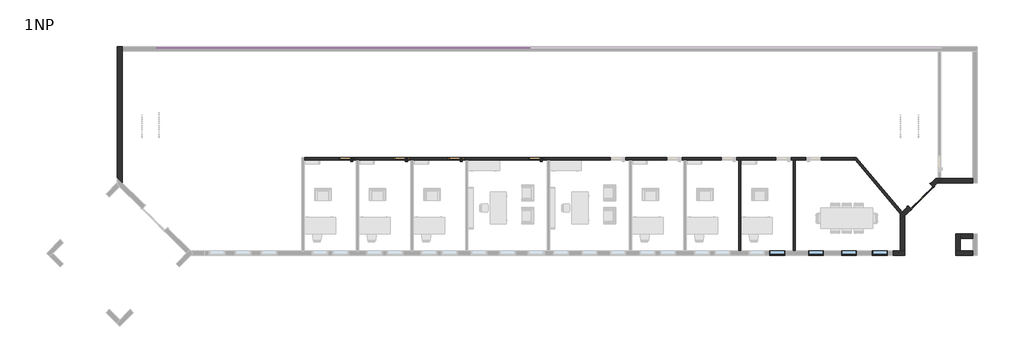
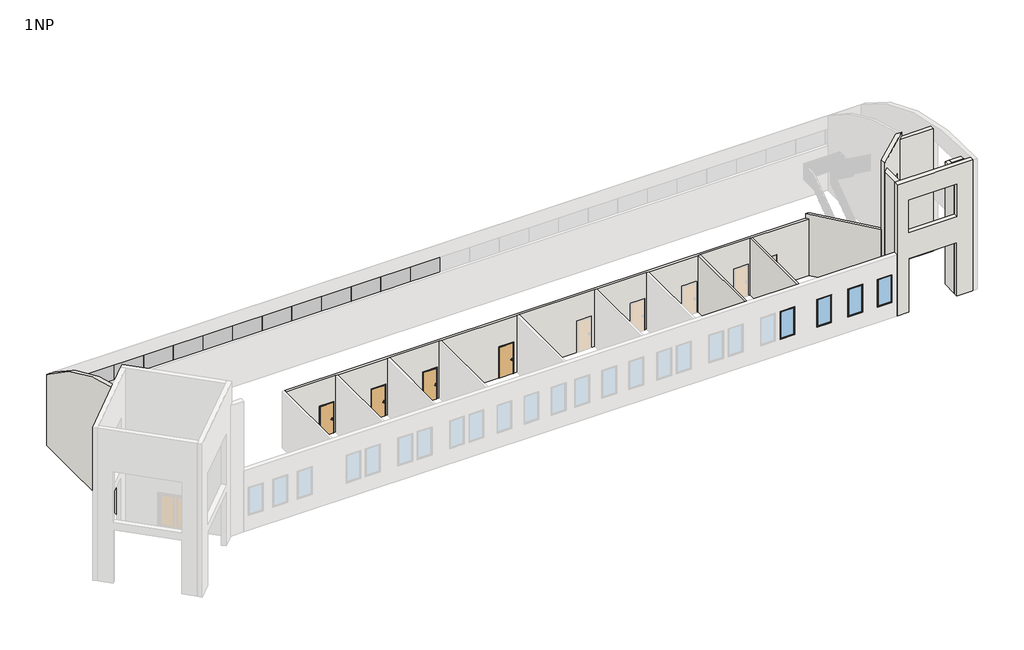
# One storey, part 2 of 3: 12 plates, 11 walls, 5 doors, 4 windows.
"""IFC4 building model written with IfcOpenShell, lengths in millimetres."""

from ifc_helpers import new_model, si_unit, frame, origin, origin_with_axes, place, context, project, spatial, polyline, circle_curve, ellipse_curve, outline, extrude, faceted_brep, transform, mapped, element, save
from ifc_brep_helpers import plane_surface, cylinder_surface, advanced_brep
from components import door_1800_x_1970mm_3c2632e2, door_900_x_2000_4c66a93d, system_panel_glazed_e7f7cd54, window_0915_x_1830mm_7ee91fd3

model = new_model("IFC4")

# Units and contexts
model_context = context("Model", 3, world=origin())
ifc_project = project(units=[si_unit("LENGTHUNIT", "METRE", prefix="MILLI")], contexts=[model_context])

# Site, building, storey
site = spatial("IfcSite", under=ifc_project)
building = spatial("IfcBuilding", under=site)
storey = spatial("IfcBuildingStorey", under=building, Name="1NP", Elevation=0.0)

# Doors
placement = place(None, origin())
door_1800_x_1970mm_shape = door_1800_x_1970mm_3c2632e2(model_context)
element("IfcDoor", 1, ObjectType="Dvoukridle prosklene : 1800 x 1970mm", at=placement, inside=storey, context=model_context, shape_type="MappedRepresentation", body=[
    mapped(door_1800_x_1970mm_shape, transform((35397.5898577, -1433.3591998, 0.0), x_axis=(0.7071067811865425, 0.7071067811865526, 0.0), y_axis=(-0.7071067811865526, 0.7071067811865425, 0.0), z_axis=(0.0, 0.0, 1.0))),
])
door_900_x_2000_shape = door_900_x_2000_4c66a93d(model_context)
element("IfcDoor", 2, ObjectType="Jednokridle oboustrana zaruben : 900 x 2000", at=placement, inside=storey, context=model_context, shape_type="MappedRepresentation", body=[
    mapped(door_900_x_2000_shape, transform((1782.4255273, 791.5551306, 0.0), x_axis=(1.0, 0.0, 0.0), y_axis=(0.0, 1.0, 0.0), z_axis=(0.0, 0.0, 1.0))),
])
element("IfcDoor", 3, ObjectType="Jednokridle oboustrana zaruben : 900 x 2000", at=placement, inside=storey, context=model_context, shape_type="MappedRepresentation", body=[
    mapped(door_900_x_2000_shape, transform((4982.4255273, 791.5551306, 0.0), x_axis=(1.0, 0.0, 0.0), y_axis=(0.0, 1.0, 0.0), z_axis=(0.0, 0.0, 1.0))),
])
element("IfcDoor", 4, ObjectType="Jednokridle oboustrana zaruben : 900 x 2000", at=placement, inside=storey, context=model_context, shape_type="MappedRepresentation", body=[
    mapped(door_900_x_2000_shape, transform((8182.4255273, 791.5551306, 0.0), x_axis=(1.0, 0.0, 0.0), y_axis=(0.0, 1.0, 0.0), z_axis=(0.0, 0.0, 1.0))),
])
element("IfcDoor", 5, ObjectType="Jednokridle oboustrana zaruben : 900 x 2000", at=placement, inside=storey, context=model_context, shape_type="MappedRepresentation", body=[
    mapped(door_900_x_2000_shape, transform((12882.4255273, 791.5551306, 0.0), x_axis=(1.0, 0.0, 0.0), y_axis=(0.0, 1.0, 0.0), z_axis=(0.0, 0.0, 1.0))),
])

# Plates
system_panel_glazed_shape = system_panel_glazed_e7f7cd54(model_context)
element("IfcPlate", 6, ObjectType="System Panel : Glazed", at=placement, inside=storey, context=model_context, shape_type="MappedRepresentation", body=[
    mapped(system_panel_glazed_shape, transform((-8495.8244727, 7241.5551306, 2916.2475184), x_axis=(1.0, 0.0, 0.0), y_axis=(0.0, 1.0, 0.0), z_axis=(0.0, 0.0, 1.0))),
])
element("IfcPlate", 7, ObjectType="System Panel : Glazed", at=placement, inside=storey, context=model_context, shape_type="MappedRepresentation", body=[
    mapped(system_panel_glazed_shape, transform((-6665.8244727, 7241.5551306, 2916.2475184), x_axis=(1.0, 0.0, 0.0), y_axis=(0.0, 1.0, 0.0), z_axis=(0.0, 0.0, 1.0))),
])
element("IfcPlate", 8, ObjectType="System Panel : Glazed", at=placement, inside=storey, context=model_context, shape_type="MappedRepresentation", body=[
    mapped(system_panel_glazed_shape, transform((-4835.8244727, 7241.5551306, 2916.2475184), x_axis=(1.0, 0.0, 0.0), y_axis=(0.0, 1.0, 0.0), z_axis=(0.0, 0.0, 1.0))),
])
element("IfcPlate", 9, ObjectType="System Panel : Glazed", at=placement, inside=storey, context=model_context, shape_type="MappedRepresentation", body=[
    mapped(system_panel_glazed_shape, transform((-3005.8244727, 7241.5551306, 2916.2475184), x_axis=(1.0, 0.0, 0.0), y_axis=(0.0, 1.0, 0.0), z_axis=(0.0, 0.0, 1.0))),
])
element("IfcPlate", 10, ObjectType="System Panel : Glazed", at=placement, inside=storey, context=model_context, shape_type="MappedRepresentation", body=[
    mapped(system_panel_glazed_shape, transform((-1175.8244727, 7241.5551306, 2916.2475184), x_axis=(1.0, 0.0, 0.0), y_axis=(0.0, 1.0, 0.0), z_axis=(0.0, 0.0, 1.0))),
])
element("IfcPlate", 11, ObjectType="System Panel : Glazed", at=placement, inside=storey, context=model_context, shape_type="MappedRepresentation", body=[
    mapped(system_panel_glazed_shape, transform((654.1755273, 7241.5551306, 2916.2475184), x_axis=(1.0, 0.0, 0.0), y_axis=(0.0, 1.0, 0.0), z_axis=(0.0, 0.0, 1.0))),
])
element("IfcPlate", 12, ObjectType="System Panel : Glazed", at=placement, inside=storey, context=model_context, shape_type="MappedRepresentation", body=[
    mapped(system_panel_glazed_shape, transform((2484.1755273, 7241.5551306, 2916.2475184), x_axis=(1.0, 0.0, 0.0), y_axis=(0.0, 1.0, 0.0), z_axis=(0.0, 0.0, 1.0))),
])
element("IfcPlate", 13, ObjectType="System Panel : Glazed", at=placement, inside=storey, context=model_context, shape_type="MappedRepresentation", body=[
    mapped(system_panel_glazed_shape, transform((4314.1755273, 7241.5551306, 2916.2475184), x_axis=(1.0, 0.0, 0.0), y_axis=(0.0, 1.0, 0.0), z_axis=(0.0, 0.0, 1.0))),
])
element("IfcPlate", 14, ObjectType="System Panel : Glazed", at=placement, inside=storey, context=model_context, shape_type="MappedRepresentation", body=[
    mapped(system_panel_glazed_shape, transform((6144.1755273, 7241.5551306, 2916.2475184), x_axis=(1.0, 0.0, 0.0), y_axis=(0.0, 1.0, 0.0), z_axis=(0.0, 0.0, 1.0))),
])
element("IfcPlate", 15, ObjectType="System Panel : Glazed", at=placement, inside=storey, context=model_context, shape_type="MappedRepresentation", body=[
    mapped(system_panel_glazed_shape, transform((7974.1755273, 7241.5551306, 2916.2475184), x_axis=(1.0, 0.0, 0.0), y_axis=(0.0, 1.0, 0.0), z_axis=(0.0, 0.0, 1.0))),
])
element("IfcPlate", 16, ObjectType="System Panel : Glazed", at=placement, inside=storey, context=model_context, shape_type="MappedRepresentation", body=[
    mapped(system_panel_glazed_shape, transform((9804.1755273, 7241.5551306, 2916.2475184), x_axis=(1.0, 0.0, 0.0), y_axis=(0.0, 1.0, 0.0), z_axis=(0.0, 0.0, 1.0))),
])
element("IfcPlate", 17, ObjectType="System Panel : Glazed", at=placement, inside=storey, context=model_context, shape_type="MappedRepresentation", body=[
    mapped(system_panel_glazed_shape, transform((11634.1755273, 7241.5551306, 2916.2475184), x_axis=(1.0, 0.0, 0.0), y_axis=(0.0, 1.0, 0.0), z_axis=(0.0, 0.0, 1.0))),
])

# Walls
element("IfcWall", 18, ObjectType="Exterior - EIFS on Mtl. Stud", at=placement, inside=storey, context=model_context, shape_type="AdvancedBrep", body=[
    advanced_brep(
    [(38455.6755273, -4624.9448694, 0.0), (37722.6755273, -4624.9448694, 0.0), (37455.6755273, -4624.9448694, 0.0), (37455.6755273, -4624.9448694, 3500.0), (34472.6755273, -4624.9448694, 3500.0), (34472.6755273, -4624.9448694, 0.0), (34205.6755273, -4624.9448694, 0.0), (33755.6755273, -4624.9448694, 0.0), (33755.6755273, -4624.9448694, 4000.0), (33755.6755273, -4624.9448694, 8000.0), (33755.6755273, -4624.9448694, 8556.4380679), (38455.6755273, -4624.9448694, 8556.4380679), (37455.6755273, -4624.9448694, 7300.0), (34472.6755273, -4624.9448694, 7300.0), (34472.6755273, -4624.9448694, 5200.0), (37455.6755273, -4624.9448694, 5200.0), (38455.6755273, -4891.9448694, 0.0), (38455.6755273, -4891.9448694, 8541.7849302), (33755.6755273, -4891.9448694, 8541.7849302), (33755.6755273, -4891.9448694, 8000.0), (33755.6755273, -4891.9448694, 4000.0), (33755.6755273, -4891.9448694, 0.0), (34472.6755273, -4891.9448694, 0.0), (34472.6755273, -4891.9448694, 3500.0), (37455.6755273, -4891.9448694, 3500.0), (37455.6755273, -4891.9448694, 0.0), (37455.6755273, -4891.9448694, 7300.0), (37455.6755273, -4891.9448694, 5200.0), (34472.6755273, -4891.9448694, 5200.0), (34472.6755273, -4891.9448694, 7300.0)],
    [
        (0, 1),
        (1, 2),
        (2, 3),
        (3, 4),
        (4, 5),
        (5, 6),
        (6, 7),
        (7, 8),
        (8, 9),
        (9, 10),
        (10, 11),
        (11, 0),
        (12, 13),
        (13, 14),
        (14, 15),
        (15, 12),
        (16, 17),
        (17, 18),
        (18, 19),
        (19, 20),
        (20, 21),
        (21, 22),
        (22, 23),
        (23, 24),
        (24, 25),
        (25, 16),
        (26, 27),
        (27, 28),
        (28, 29),
        (29, 26),
        (0, 16),
        (25, 2),
        (3, 24),
        (23, 4),
        (22, 5),
        (21, 7),
        (12, 26),
        (29, 13),
        (14, 28),
        (27, 15),
        (18, 10, circle_curve(frame((33755.6755273, -3782.5530793, -9232.9575956), z_axis=(-1.0, 0.0, 0.0), x_axis=(0.0, -1.0, 0.0)), 17809.3296337)),
        (11, 17, circle_curve(frame((38455.6755273, -3782.5530793, -9232.9575956), z_axis=(1.0, 0.0, 0.0), x_axis=(0.0, -1.0, 0.0)), 17809.3296337)),
    ],
    [
        plane_surface(frame((12455.6755273, -4624.9448694, 0.0), z_axis=(0.0, 1.0, 0.0), x_axis=(-1.0, 0.0, 0.0))),
        plane_surface(frame((12455.6755273, -4891.9448694, 0.0), z_axis=(0.0, -1.0, 0.0), x_axis=(1.0, 0.0, 0.0))),
        plane_surface(frame((38589.1755273, -4624.9448694, 0.0), z_axis=(0.0, 0.0, -1.0), x_axis=(0.0, -1.0, 0.0))),
        plane_surface(frame((37589.1755273, -4624.9448694, 3500.0), z_axis=(0.0, 0.0, -1.0), x_axis=(0.0, -1.0, 0.0))),
        plane_surface(frame((34472.6755273, -4624.9448694, 3500.0), z_axis=(1.0, 0.0, 0.0), x_axis=(0.0, -1.0, 0.0))),
        plane_surface(frame((34472.6755273, -4624.9448694, 0.0), z_axis=(0.0, 0.0, -1.0), x_axis=(0.0, -1.0, 0.0))),
        plane_surface(frame((37589.1755273, -4624.9448694, 7300.0), z_axis=(0.0, 0.0, -1.0), x_axis=(0.0, -1.0, 0.0))),
        plane_surface(frame((34339.1755273, -4624.9448694, 5200.0), z_axis=(0.0, 0.0, 1.0), x_axis=(0.0, -1.0, 0.0))),
        plane_surface(frame((33755.6755273, -4624.9448694, 0.0), z_axis=(-1.0, 0.0, 0.0), x_axis=(0.0, -1.0, 0.0))),
        plane_surface(frame((34472.6755273, -4758.4448694, 0.0), z_axis=(1.0, 0.0, 0.0), x_axis=(0.0, 1.0, 0.0))),
        plane_surface(frame((37455.6755273, -4758.4448694, 0.0), z_axis=(-1.0, 0.0, 0.0), x_axis=(0.0, -1.0, 0.0))),
        plane_surface(frame((38455.6755273, 5741.5551306, 0.0), z_axis=(1.0, 0.0, 0.0), x_axis=(0.0, -1.0, 0.0))),
        cylinder_surface(frame((39922.6755273, -3782.5530793, -9232.9575956), z_axis=(1.0, 0.0, 0.0), x_axis=(0.0, -1.0, 0.0)), 17809.3296337),
    ],
    [
        (0, [[1, 2, 3, 4, 5, 6, 7, 8, 9, 10, 11, 12], [13, 14, 15, 16]]),
        (1, [[17, 18, 19, 20, 21, 22, 23, 24, 25, 26], [27, 28, 29, 30]]),
        (2, [[-2, -1, 31, -26, 32]]),
        (3, [[-4, 33, -24, 34]]),
        (4, [[-5, -34, -23, 35]]),
        (5, [[-7, -6, -35, -22, 36]]),
        (6, [[-13, 37, -30, 38]]),
        (7, [[-15, 39, -28, 40]]),
        (8, [[-36, -21, -20, -19, 41, -10, -9, -8]]),
        (9, [[-14, -38, -29, -39]]),
        (10, [[-3, -32, -25, -33]]),
        (10, [[-16, -40, -27, -37]]),
        (11, [[-12, 42, -17, -31]]),
        (12, [[-11, -41, -18, -42]]),
    ],
),
])
element("IfcWall", 19, ObjectType="Exterior - EIFS on Mtl. Stud", at=placement, inside=storey, context=model_context, shape_type="AdvancedBrep", body=[
    advanced_brep(
    [(-11410.8244727, -601.928028, 0.0), (-11410.8244727, 7108.0551306, 0.0), (-11410.8244727, 7375.0551306, 0.0), (-11410.8244727, 7375.0551306, 4647.9646014), (-11410.8244727, 7108.0445023, 4858.4264309), (-11410.8244727, -601.928028, 8290.0514578), (-11677.8244727, -334.928028, 0.0), (-11677.8244727, -334.928028, 8239.4808006), (-11677.8244727, 7375.0551306, 4647.9646014), (-11677.8244727, 7375.0551306, 0.0)],
    [
        (0, 1),
        (1, 2),
        (2, 3),
        (3, 4, circle_curve(frame((-11410.8244727, -3782.5530793, -9232.9575956), z_axis=(1.0, 0.0, 0.0), x_axis=(0.0, -1.0, 0.0)), 17809.3296337)),
        (4, 5, circle_curve(frame((-11410.8244727, -3782.5530793, -9232.9575956), z_axis=(1.0, 0.0, 0.0), x_axis=(0.0, -1.0, 0.0)), 17809.3295625)),
        (5, 0),
        (6, 7),
        (7, 8, circle_curve(frame((-11677.8244727, -3782.5530793, -9232.9575956), z_axis=(-1.0, 0.0, 0.0), x_axis=(0.0, -1.0, 0.0)), 17809.3296337)),
        (8, 9),
        (9, 6),
        (0, 6),
        (9, 2),
        (8, 3),
        (5, 7, ellipse_curve(frame((-8230.1994214, -3782.5530793, -9232.9575956), z_axis=(-0.7071067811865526, -0.7071067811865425, 0.0), x_axis=(0.7071067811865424, -0.7071067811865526, 0.0)), 25186.1955048, 17809.3296337)),
    ],
    [
        plane_surface(frame((-11410.8244727, -6258.4448694, 0.0), z_axis=(1.0, 0.0, 0.0), x_axis=(0.0, 1.0, 0.0))),
        plane_surface(frame((-11677.8244727, -6258.4448694, 0.0), z_axis=(-1.0, 0.0, 0.0), x_axis=(0.0, -1.0, 0.0))),
        plane_surface(frame((-11410.8244727, -657.2255385, 0.0), z_axis=(0.0, 0.0, -1.0), x_axis=(-1.0, 0.0, 0.0))),
        plane_surface(frame((-5544.3244727, 7375.0551306, 0.0), z_axis=(0.0, 1.0, 0.0), x_axis=(-1.0, 0.0, 0.0))),
        plane_surface(frame((-12510.5858892, 497.8333885, 0.0), z_axis=(-0.7071067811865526, -0.7071067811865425, 0.0), x_axis=(-0.7071067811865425, 0.7071067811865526, 0.0))),
        cylinder_surface(frame((39922.6755273, -3782.5530793, -9232.9575956), z_axis=(1.0, 0.0, 0.0), x_axis=(0.0, -1.0, 0.0)), 17809.3296337),
    ],
    [
        (0, [[1, 2, 3, 4, 5, 6]]),
        (1, [[7, 8, 9, 10]]),
        (2, [[-2, -1, 11, -10, 12]]),
        (3, [[-3, -12, -9, 13]]),
        (4, [[-6, 14, -7, -11]]),
        (5, [[-5, -4, -13, -8, -14]]),
    ],
),
])
element("IfcWall", 20, ObjectType="Exterior - EIFS on Mtl. Stud", at=placement, inside=storey, context=model_context, shape_type="Brep", body=[
    faceted_brep([(37722.6755273, -4624.9448694, 8000.0), (37722.6755273, -4624.9448694, 0.0), (37722.6755273, -3891.9448694, 0.0), (37722.6755273, -3624.9448694, 0.0), (37722.6755273, -3624.9448694, 8000.0), (37722.6755273, -3891.9448694, 8000.0), (37455.6755273, -4624.9448694, 0.0), (37455.6755273, -4624.9448694, 3500.0), (37455.6755273, -4624.9448694, 5200.0), (37455.6755273, -4624.9448694, 7300.0), (37455.6755273, -4624.9448694, 8000.0), (37455.6755273, -3624.9448694, 8000.0), (37455.6755273, -3624.9448694, 0.0)], [[[0, 1, 2, 3, 4, 5]], [[6, 7, 8, 9, 10, 11, 12]], [[3, 2, 1, 6, 12]], [[0, 5, 4, 11, 10]], [[4, 3, 12, 11]], [[0, 10, 9, 8, 7, 6, 1]]]),
])
element("IfcWall", 21, ObjectType="Exterior - EIFS on Mtl. Stud", at=placement, inside=storey, context=model_context, shape_type="Brep", body=[
    faceted_brep([(37722.6755273, -3891.9448694, 0.0), (38455.6755273, -3891.9448694, 0.0), (38455.6755273, -3891.9448694, 8000.0), (37722.6755273, -3891.9448694, 8000.0), (37722.6755273, -3624.9448694, 0.0), (37722.6755273, -3624.9448694, 8000.0), (38455.6755273, -3624.9448694, 8000.0), (38455.6755273, -3624.9448694, 7300.0), (38455.6755273, -3624.9448694, 5200.0), (38455.6755273, -3624.9448694, 3500.0), (38455.6755273, -3624.9448694, 0.0)], [[[0, 1, 2, 3]], [[4, 5, 6, 7, 8, 9, 10]], [[1, 0, 4, 10]], [[3, 2, 6, 5]], [[0, 3, 5, 4]], [[1, 10, 9, 8, 7, 6, 2]]]),
])
element("IfcWall", 22, ObjectType="Exterior - EIFS on Mtl. Stud", at=placement, inside=storey, context=model_context, shape_type="AdvancedBrep", body=[
    advanced_brep(
    [(36270.5742736, -374.9448694, 0.0), (35951.8776052, -693.6415378, 0.0), (35951.8776052, -693.6415378, 2134.0), (34657.8721956, -1987.6469473, 2134.0), (34657.8721956, -1987.6469473, 0.0), (34302.1897841, -2343.3293589, 0.0), (34205.6755273, -2439.8436157, 0.0), (34205.6755273, -2439.8436157, 4000.0), (34205.6755273, -2439.8436157, 8000.0), (34205.6755273, -2439.8436157, 8525.6840557), (36270.5742736, -374.9448694, 8247.3292525), (35823.8290879, -821.6900551, 4000.0), (35823.8290879, -821.6900551, 6134.0), (34529.8236783, -2115.6954646, 6134.0), (34529.8236783, -2115.6954646, 4000.0), (36140.6751158, -882.4390484, 2134.0), (36140.6751158, -882.4390484, 0.0), (36381.1692947, -641.9448694, 0.0), (36648.1692947, -374.9448694, 0.0), (36648.1692947, -374.9448694, 8000.0), (36648.1692947, -374.9448694, 8247.3292525), (34205.6755273, -2817.4386368, 8550.2023068), (34205.6755273, -2817.4386368, 8000.0), (34205.6755273, -2817.4386368, 0.0), (34472.6755273, -2550.4386368, 0.0), (34846.6697062, -2176.4444579, 0.0), (34846.6697062, -2176.4444579, 2134.0), (36012.6265985, -1010.4875656, 4000.0), (34718.6211889, -2304.4929752, 4000.0), (34718.6211889, -2304.4929752, 6134.0), (36012.6265985, -1010.4875656, 6134.0), (36419.9255273, -374.9448694, 0.0), (36558.4255273, -374.9448694, 0.0), (34205.6755273, -2443.7758967, 0.0), (36419.9255273, -374.9448694, 8247.3292525), (36558.4255273, -374.9448694, 8247.3292525)],
    [
        (0, 1),
        (1, 2),
        (2, 3),
        (3, 4),
        (4, 5),
        (5, 6),
        (6, 7),
        (7, 8),
        (8, 9),
        (9, 10, ellipse_curve(frame((32862.9660637, -3782.5530793, -9232.9575956), z_axis=(-0.7071067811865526, 0.7071067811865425, 0.0), x_axis=(0.7071067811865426, 0.7071067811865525, 0.0)), 25186.1955048, 17809.3296337)),
        (10, 0),
        (11, 12),
        (12, 13),
        (13, 14),
        (14, 11),
        (15, 16),
        (16, 17),
        (17, 18),
        (18, 19),
        (19, 20),
        (20, 21, ellipse_curve(frame((33240.5610849, -3782.5530793, -9232.9575956), z_axis=(0.7071067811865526, -0.7071067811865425, 0.0), x_axis=(0.7071067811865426, 0.7071067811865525, 0.0)), 25186.1955048, 17809.3296337)),
        (21, 22),
        (22, 23),
        (23, 24),
        (24, 25),
        (25, 26),
        (26, 15),
        (27, 28),
        (28, 29),
        (29, 30),
        (30, 27),
        (16, 1),
        (0, 31),
        (31, 32),
        (32, 18),
        (23, 33),
        (33, 6),
        (4, 25),
        (10, 34),
        (34, 35),
        (35, 20),
        (21, 9, circle_curve(frame((34205.6755273, -3782.5530793, -9232.9575956), z_axis=(-1.0, 0.0, 0.0), x_axis=(0.0, -1.0, 0.0)), 17809.3296337)),
        (15, 2),
        (26, 3),
        (27, 11),
        (14, 28),
        (13, 29),
        (12, 30),
    ],
    [
        plane_surface(frame((38416.1447376, 1770.6255947, 0.0), z_axis=(-0.7071067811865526, 0.7071067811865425, 0.0), x_axis=(-0.7071067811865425, -0.7071067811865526, 0.0))),
        plane_surface(frame((38604.9422482, 1581.8280841, 0.0), z_axis=(0.7071067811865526, -0.7071067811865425, 0.0), x_axis=(0.7071067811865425, 0.7071067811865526, 0.0))),
        plane_surface(frame((36231.4730288, -414.0461141, 0.0), z_axis=(0.0, 0.0, -1.0), x_axis=(0.7071067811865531, -0.707106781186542, 0.0))),
        plane_surface(frame((38455.6755273, -374.9448694, 0.0), z_axis=(0.0, 1.0, 0.0), x_axis=(-1.0, 0.0, 0.0))),
        plane_surface(frame((34205.6755273, -4758.4448694, 0.0), z_axis=(-1.0, 0.0, 0.0), x_axis=(0.0, -1.0, 0.0))),
        cylinder_surface(frame((39922.6755273, -3782.5530793, -9232.9575956), z_axis=(1.0, 0.0, 0.0), x_axis=(0.0, -1.0, 0.0)), 17809.3296337),
        plane_surface(frame((35951.8776052, -693.6415378, 0.0), z_axis=(-0.7071067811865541, -0.7071067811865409, 0.0), x_axis=(0.7071067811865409, -0.7071067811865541, 0.0))),
        plane_surface(frame((35951.8776052, -693.6415378, 2134.0), z_axis=(0.0, 0.0, -1.0), x_axis=(0.7071067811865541, -0.7071067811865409, 0.0))),
        plane_surface(frame((34657.8721956, -1987.6469473, 2134.0), z_axis=(0.707106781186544, 0.7071067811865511, 0.0), x_axis=(0.7071067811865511, -0.707106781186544, 0.0))),
        plane_surface(frame((36012.6265985, -1010.4875656, 4000.0), z_axis=(0.0, 0.0, 1.0), x_axis=(-0.7071067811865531, 0.707106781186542, 0.0))),
        plane_surface(frame((34718.6211889, -2304.4929752, 4000.0), z_axis=(0.707106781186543, 0.7071067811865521, 0.0), x_axis=(-0.7071067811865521, 0.707106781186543, 0.0))),
        plane_surface(frame((34718.6211889, -2304.4929752, 6134.0), z_axis=(0.0, 0.0, -1.0000000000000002), x_axis=(-0.707106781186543, 0.7071067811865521, 0.0))),
        plane_surface(frame((36012.6265985, -1010.4875656, 6134.0), z_axis=(-0.707106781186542, -0.7071067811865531, 0.0), x_axis=(-0.7071067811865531, 0.707106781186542, 0.0))),
    ],
    [
        (0, [[1, 2, 3, 4, 5, 6, 7, 8, 9, 10, 11], [12, 13, 14, 15]]),
        (1, [[16, 17, 18, 19, 20, 21, 22, 23, 24, 25, 26, 27], [28, 29, 30, 31]]),
        (2, [[-18, -17, 32, -1, 33, 34, 35]]),
        (2, [[-25, -24, 36, 37, -6, -5, 38]]),
        (3, [[-11, 39, 40, 41, -20, -19, -35, -34, -33]]),
        (4, [[-37, -36, -23, -22, 42, -9, -8, -7]]),
        (5, [[-10, -42, -21, -41, -40, -39]]),
        (6, [[-2, -32, -16, 43]]),
        (7, [[-3, -43, -27, 44]]),
        (8, [[-4, -44, -26, -38]]),
        (9, [[-28, 45, -15, 46]]),
        (10, [[-29, -46, -14, 47]]),
        (11, [[-30, -47, -13, 48]]),
        (12, [[-31, -48, -12, -45]]),
    ],
),
])
element("IfcWall", 23, ObjectType="Exterior - EIFS on Mtl. Stud", at=placement, inside=storey, context=model_context, shape_type="Brep", body=[
    faceted_brep([(38455.6755273, -374.9448694, 8000.0), (38455.6755273, -374.9448694, 0.0), (36648.1692947, -374.9448694, 0.0), (36648.1692947, -374.9448694, 8000.0), (38455.6755273, -641.9448694, 0.0), (38455.6755273, -641.9448694, 3500.0), (38455.6755273, -641.9448694, 5200.0), (38455.6755273, -641.9448694, 7300.0), (38455.6755273, -641.9448694, 8000.0), (36381.1692947, -641.9448694, 8000.0), (36381.1692947, -641.9448694, 0.0)], [[[0, 1, 2, 3]], [[4, 5, 6, 7, 8, 9, 10]], [[2, 1, 4, 10]], [[0, 3, 9, 8]], [[3, 2, 10, 9]], [[0, 8, 7, 6, 5, 4, 1]]]),
])
element("IfcWall", 24, ObjectType="Exterior - EIFS on Mtl. Stud", at=placement, inside=storey, context=model_context, shape_type="Brep", body=[
    faceted_brep([(34472.6755273, -4624.9448694, 8000.0), (34472.6755273, -4624.9448694, 7300.0), (34472.6755273, -4624.9448694, 5200.0), (34472.6755273, -4624.9448694, 3500.0), (34472.6755273, -4624.9448694, 0.0), (34472.6755273, -2550.4386368, 0.0), (34472.6755273, -2550.4386368, 8000.0), (34205.6755273, -4624.9448694, 0.0), (34205.6755273, -4624.9448694, 8000.0), (34205.6755273, -2817.4386368, 8000.0), (34205.6755273, -2817.4386368, 0.0)], [[[0, 1, 2, 3, 4, 5, 6]], [[7, 8, 9, 10]], [[5, 4, 7, 10]], [[0, 6, 9, 8]], [[5, 10, 9, 6]], [[0, 8, 7, 4, 3, 2, 1]]]),
])
element("IfcWall", 25, ObjectType="Interior - 138mm Partition (1-hr)", at=placement, inside=storey, context=model_context, shape_type="SweptSolid", body=[
    extrude(outline(polyline([(28058.4255273, 722.3051306), (28058.4255273, -4624.9448694), (27919.9255273, -4624.9448694), (27919.9255273, 722.3051306), (28058.4255273, 722.3051306)])), origin_with_axes(), (0.0, 0.0, 1.0), 3700.0),
])
element("IfcWall", 26, ObjectType="Interior - 138mm Partition (1-hr)", at=placement, inside=storey, context=model_context, shape_type="Brep", body=[
    faceted_brep([(34302.1897841, -2343.3293589, 0.0), (31613.6017157, 860.8051306, 0.0), (31613.6017157, 860.8051306, 4000.0), (34302.1897841, -2343.3293589, 4000.0), (34205.6755273, -2443.7758967, 0.0), (34205.6755273, -2443.7758967, 4000.0), (31432.8028061, 860.8051306, 4000.0), (31432.8028061, 860.8051306, 3700.0), (31432.8028061, 860.8051306, 0.0), (31549.018105, 722.3051306, 0.0), (34205.6755273, -2439.8436157, 0.0), (34205.6755273, -2439.8436157, 4000.0)], [[[0, 1, 2, 3]], [[4, 5, 6, 7, 8, 9]], [[1, 0, 10, 4, 9, 8]], [[3, 2, 6, 5, 11]], [[2, 1, 8, 7, 6]], [[0, 3, 11, 10]], [[11, 5, 4, 10]]]),
])
element("IfcWall", 27, ObjectType="Interior - 138mm Partition (1-hr)", at=placement, inside=storey, context=model_context, shape_type="Brep", body=[
    faceted_brep([(20512.4255273, 860.8051306, 0.0), (18112.4255273, 860.8051306, 0.0), (18112.4255273, 860.8051306, 2050.0), (17212.4255273, 860.8051306, 2050.0), (17212.4255273, 860.8051306, 0.0), (13312.4255273, 860.8051306, 0.0), (13312.4255273, 860.8051306, 2050.0), (12412.4255273, 860.8051306, 2050.0), (12412.4255273, 860.8051306, 0.0), (8612.4255273, 860.8051306, 0.0), (8612.4255273, 860.8051306, 2050.0), (7712.4255273, 860.8051306, 2050.0), (7712.4255273, 860.8051306, 0.0), (5412.4255273, 860.8051306, 0.0), (5412.4255273, 860.8051306, 2050.0), (4512.4255273, 860.8051306, 2050.0), (4512.4255273, 860.8051306, 0.0), (2212.4255273, 860.8051306, 0.0), (2212.4255273, 860.8051306, 2050.0), (1312.4255273, 860.8051306, 2050.0), (1312.4255273, 860.8051306, 0.0), (-741.5744727, 860.8051306, 0.0), (-741.5744727, 860.8051306, 3700.0), (31432.8028061, 860.8051306, 3700.0), (31432.8028061, 860.8051306, 0.0), (29565.9255273, 860.8051306, 0.0), (29565.9255273, 860.8051306, 2050.0), (28665.9255273, 860.8051306, 2050.0), (28665.9255273, 860.8051306, 0.0), (27812.4255273, 860.8051306, 0.0), (27812.4255273, 860.8051306, 2050.0), (26912.4255273, 860.8051306, 2050.0), (26912.4255273, 860.8051306, 0.0), (24612.4255273, 860.8051306, 0.0), (24612.4255273, 860.8051306, 2050.0), (23712.4255273, 860.8051306, 2050.0), (23712.4255273, 860.8051306, 0.0), (21412.4255273, 860.8051306, 0.0), (21412.4255273, 860.8051306, 2050.0), (20512.4255273, 860.8051306, 2050.0), (18112.4255273, 722.3051306, 2050.0), (18112.4255273, 722.3051306, 0.0), (18319.9255273, 722.3051306, 0.0), (18458.4255273, 722.3051306, 0.0), (20512.4255273, 722.3051306, 0.0), (20512.4255273, 722.3051306, 2050.0), (21412.4255273, 722.3051306, 2050.0), (21412.4255273, 722.3051306, 0.0), (21519.9255273, 722.3051306, 0.0), (21658.4255273, 722.3051306, 0.0), (23712.4255273, 722.3051306, 0.0), (23712.4255273, 722.3051306, 2050.0), (24612.4255273, 722.3051306, 2050.0), (24612.4255273, 722.3051306, 0.0), (24719.9255273, 722.3051306, 0.0), (24858.4255273, 722.3051306, 0.0), (26912.4255273, 722.3051306, 0.0), (26912.4255273, 722.3051306, 2050.0), (27812.4255273, 722.3051306, 2050.0), (27812.4255273, 722.3051306, 0.0), (27919.9255273, 722.3051306, 0.0), (28058.4255273, 722.3051306, 0.0), (28665.9255273, 722.3051306, 0.0), (28665.9255273, 722.3051306, 2050.0), (29565.9255273, 722.3051306, 2050.0), (29565.9255273, 722.3051306, 0.0), (31549.018105, 722.3051306, 0.0), (31549.018105, 722.3051306, 3700.0), (28058.4255273, 722.3051306, 3700.0), (27919.9255273, 722.3051306, 3700.0), (24858.4255273, 722.3051306, 3700.0), (24719.9255273, 722.3051306, 3700.0), (21658.4255273, 722.3051306, 3700.0), (21519.9255273, 722.3051306, 3700.0), (18458.4255273, 722.3051306, 3700.0), (18319.9255273, 722.3051306, 3700.0), (13658.4255273, 722.3051306, 3700.0), (13519.9255273, 722.3051306, 3700.0), (8858.4255273, 722.3051306, 3700.0), (8719.9255273, 722.3051306, 3700.0), (5658.4255273, 722.3051306, 3700.0), (5519.9255273, 722.3051306, 3700.0), (2458.4255273, 722.3051306, 3700.0), (2319.9255273, 722.3051306, 3700.0), (-741.5744727, 722.3051306, 3700.0), (-741.5744727, 722.3051306, 0.0), (1312.4255273, 722.3051306, 0.0), (1312.4255273, 722.3051306, 2050.0), (2212.4255273, 722.3051306, 2050.0), (2212.4255273, 722.3051306, 0.0), (2319.9255273, 722.3051306, 0.0), (2458.4255273, 722.3051306, 0.0), (4512.4255273, 722.3051306, 0.0), (4512.4255273, 722.3051306, 2050.0), (5412.4255273, 722.3051306, 2050.0), (5412.4255273, 722.3051306, 0.0), (5519.9255273, 722.3051306, 0.0), (5658.4255273, 722.3051306, 0.0), (7712.4255273, 722.3051306, 0.0), (7712.4255273, 722.3051306, 2050.0), (8612.4255273, 722.3051306, 2050.0), (8612.4255273, 722.3051306, 0.0), (8719.9255273, 722.3051306, 0.0), (8858.4255273, 722.3051306, 0.0), (12412.4255273, 722.3051306, 0.0), (12412.4255273, 722.3051306, 2050.0), (13312.4255273, 722.3051306, 2050.0), (13312.4255273, 722.3051306, 0.0), (13519.9255273, 722.3051306, 0.0), (13658.4255273, 722.3051306, 0.0), (17212.4255273, 722.3051306, 0.0), (17212.4255273, 722.3051306, 2050.0)], [[[0, 1, 2, 3, 4, 5, 6, 7, 8, 9, 10, 11, 12, 13, 14, 15, 16, 17, 18, 19, 20, 21, 22, 23, 24, 25, 26, 27, 28, 29, 30, 31, 32, 33, 34, 35, 36, 37, 38, 39]], [[40, 41, 42, 43, 44, 45, 46, 47, 48, 49, 50, 51, 52, 53, 54, 55, 56, 57, 58, 59, 60, 61, 62, 63, 64, 65, 66, 67, 68, 69, 70, 71, 72, 73, 74, 75, 76, 77, 78, 79, 80, 81, 82, 83, 84, 85, 86, 87, 88, 89, 90, 91, 92, 93, 94, 95, 96, 97, 98, 99, 100, 101, 102, 103, 104, 105, 106, 107, 108, 109, 110, 111]], [[62, 61, 60, 59, 29, 28]], [[25, 24, 66, 65]], [[86, 85, 21, 20]], [[104, 103, 102, 101, 9, 8]], [[92, 91, 90, 89, 17, 16]], [[98, 97, 96, 95, 13, 12]], [[44, 43, 42, 41, 1, 0]], [[50, 49, 48, 47, 37, 36]], [[56, 55, 54, 53, 33, 32]], [[110, 109, 108, 107, 5, 4]], [[23, 22, 84, 83, 82, 81, 80, 79, 78, 77, 76, 75, 74, 73, 72, 71, 70, 69, 68, 67]], [[24, 23, 67, 66]], [[22, 21, 85, 84]], [[63, 62, 28, 27]], [[64, 63, 27, 26]], [[65, 64, 26, 25]], [[18, 17, 89, 88]], [[19, 18, 88, 87]], [[20, 19, 87, 86]], [[6, 5, 107, 106]], [[7, 6, 106, 105]], [[8, 7, 105, 104]], [[14, 13, 95, 94]], [[15, 14, 94, 93]], [[16, 15, 93, 92]], [[10, 9, 101, 100]], [[11, 10, 100, 99]], [[12, 11, 99, 98]], [[38, 37, 47, 46]], [[39, 38, 46, 45]], [[0, 39, 45, 44]], [[34, 33, 53, 52]], [[35, 34, 52, 51]], [[36, 35, 51, 50]], [[30, 29, 59, 58]], [[31, 30, 58, 57]], [[32, 31, 57, 56]], [[2, 1, 41, 40]], [[3, 2, 40, 111]], [[4, 3, 111, 110]]]),
])
element("IfcWall", 28, ObjectType="Interior - 138mm Partition (1-hr)", at=placement, inside=storey, context=model_context, shape_type="SweptSolid", body=[
    extrude(outline(polyline([(24858.4255273, 722.3051306), (24858.4255273, -4624.9448694), (24719.9255273, -4624.9448694), (24719.9255273, 722.3051306), (24858.4255273, 722.3051306)])), origin_with_axes(), (0.0, 0.0, 1.0), 3700.0),
])

# Windows
window_0915_x_1830mm_shape = window_0915_x_1830mm_7ee91fd3(model_context)
element("IfcWindow", 29, ObjectType="Pevne : 0915 x 1830mm", at=placement, inside=storey, context=model_context, shape_type="MappedRepresentation", body=[
    mapped(window_0915_x_1830mm_shape, transform((32998.1755273, -4745.4448694, 665.0), x_axis=(-1.0, 0.0, 0.0), y_axis=(0.0, -1.0, 0.0), z_axis=(0.0, 0.0, 1.0))),
])
element("IfcWindow", 30, ObjectType="Pevne : 0915 x 1830mm", at=placement, inside=storey, context=model_context, shape_type="MappedRepresentation", body=[
    mapped(window_0915_x_1830mm_shape, transform((31183.1755273, -4745.4448694, 665.0), x_axis=(-1.0, 0.0, 0.0), y_axis=(0.0, -1.0, 0.0), z_axis=(0.0, 0.0, 1.0))),
])
element("IfcWindow", 31, ObjectType="Pevne : 0915 x 1830mm", at=placement, inside=storey, context=model_context, shape_type="MappedRepresentation", body=[
    mapped(window_0915_x_1830mm_shape, transform((29268.1755273, -4745.4448694, 665.0), x_axis=(-1.0, 0.0, 0.0), y_axis=(0.0, -1.0, 0.0), z_axis=(0.0, 0.0, 1.0))),
])
element("IfcWindow", 32, ObjectType="Pevne : 0915 x 1830mm", at=placement, inside=storey, context=model_context, shape_type="MappedRepresentation", body=[
    mapped(window_0915_x_1830mm_shape, transform((26989.1755273, -4745.4448694, 665.0), x_axis=(-1.0, 0.0, 0.0), y_axis=(0.0, -1.0, 0.0), z_axis=(0.0, 0.0, 1.0))),
])

save(model, "model.ifc")
